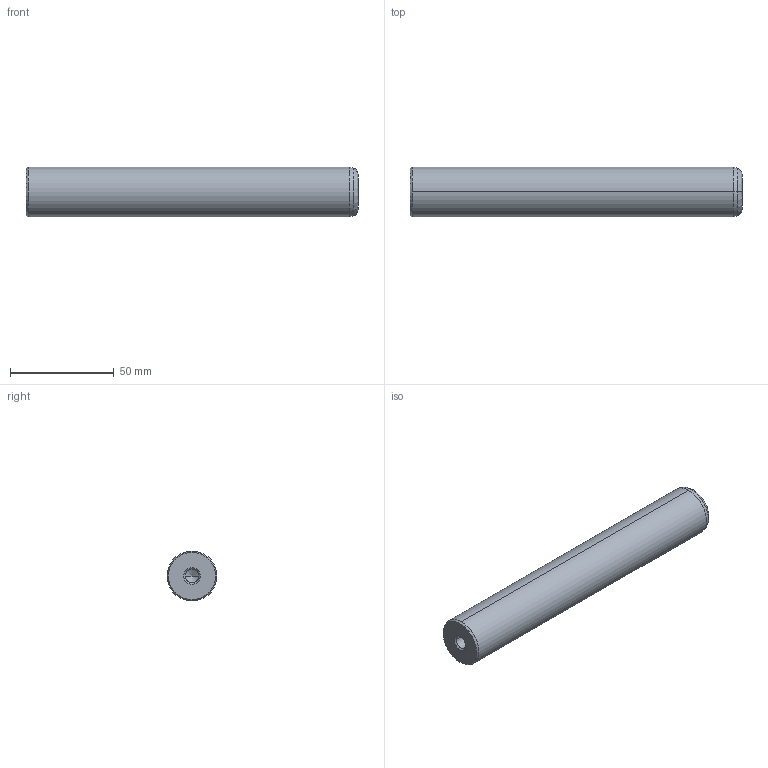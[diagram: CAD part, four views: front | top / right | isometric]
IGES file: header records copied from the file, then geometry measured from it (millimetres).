
Start section: START RECORD GO HERE.
Global section: file name: 720-24x160.igs; native system: DASSAULT SYSTEMES CATIA V5 R20 - www.3ds.com; preprocessor: CATIA Version 5 Release 20 ; author: Utente; organization: NB04-ASUS; date: 20210101.135317; units: millimetre
Bounding box: 160 x 24 x 24 mm (x, y, z)
Surface area: 13803.8 mm2 (no closed solid volume)
Topology: 0 solids, 0 shells, 22 faces, 108 edges, 104 vertices
Faces by surface type: revolution 20, plane 2
